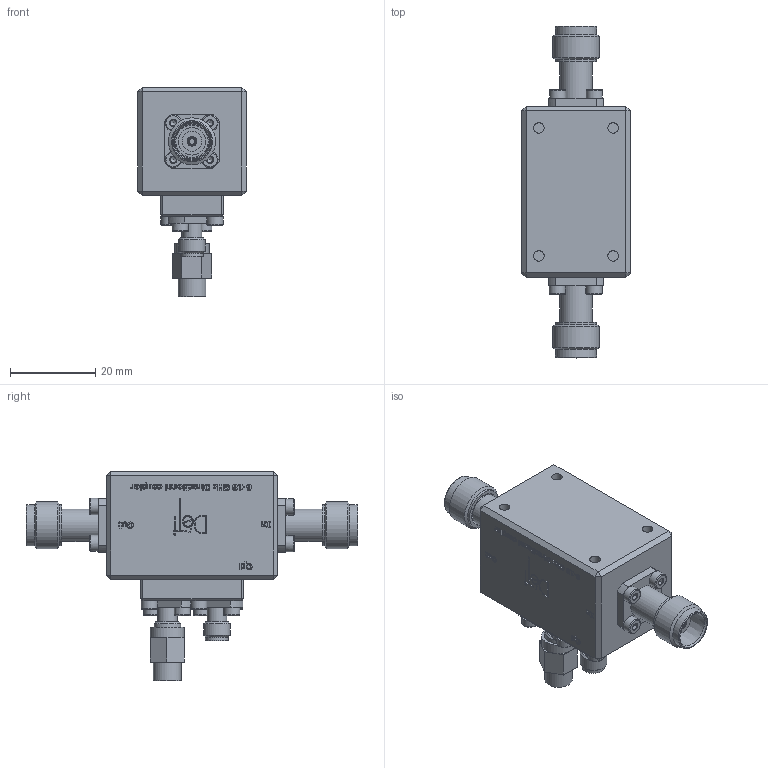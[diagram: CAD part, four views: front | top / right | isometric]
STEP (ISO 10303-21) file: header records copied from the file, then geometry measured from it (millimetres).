
FILE_DESCRIPTION(/* description */ ('Unknown'),/* implementation_level */ '2;1');
FILE_NAME(/* name */ 'DETI_MICROWAVE_HIGH_POWER_UNIDIRECTIONAL_COUPLER_011077_STEP',/* time_stamp */ '2021-06-10T11:49:03+02:00',/* author */ ('ALG'),/* organization */ ('DETI'),/* preprocessor_version */ 'ST-DEVELOPER v16.7',/* originating_system */ 'Solid Edge',/* authorisation */ 'Unknown');
FILE_SCHEMA (('AUTOMOTIVE_DESIGN {1 0 10303 214 3 1 1}'));
Length unit declared in the file: millimetre
Products named in the file (1): CD-1-6-18-25-200-TF-TF-SF
Bounding box: 25.4 x 77.82 x 49.17 mm (x, y, z)
Volume: 28871.5 mm3; surface area: 11152.5 mm2
Topology: 3 solids, 23 shells, 904 faces, 2199 edges, 1428 vertices
Faces by surface type: plane 588, cylinder 127, bspline 75, cone 68, torus 46
Full cylindrical faces by diameter (mm): 0.459 x1, 0.623 x2, 0.8 x1, 0.975 x2, 0.985 x2, 1.265 x2, 1.27 x1, 1.4 x2, 1.567 x4, 2 x12, 2.2 x4, 2.275 x2, 2.459 x4, 2.6 x8, 3.8 x16, 4.1 x2, 4.11 x2, 4.6 x2, 4.64 x2, 4.67 x2, 5.35 x2, 6.255 x2, 6.47 x2, 6.5 x1, 6.7 x1, 6.8 x1, 7.6 x2, 8 x1, 9.64 x4, 11 x2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
Entity records: 32348 total; most frequent: CARTESIAN_POINT 6791, ORIENTED_EDGE 3792, DIRECTION 3708, EDGE_CURVE 1896, VERTEX_POINT 1343, AXIS2_PLACEMENT_3D 1257, FACE_BOUND 1241, EDGE_LOOP 1221
